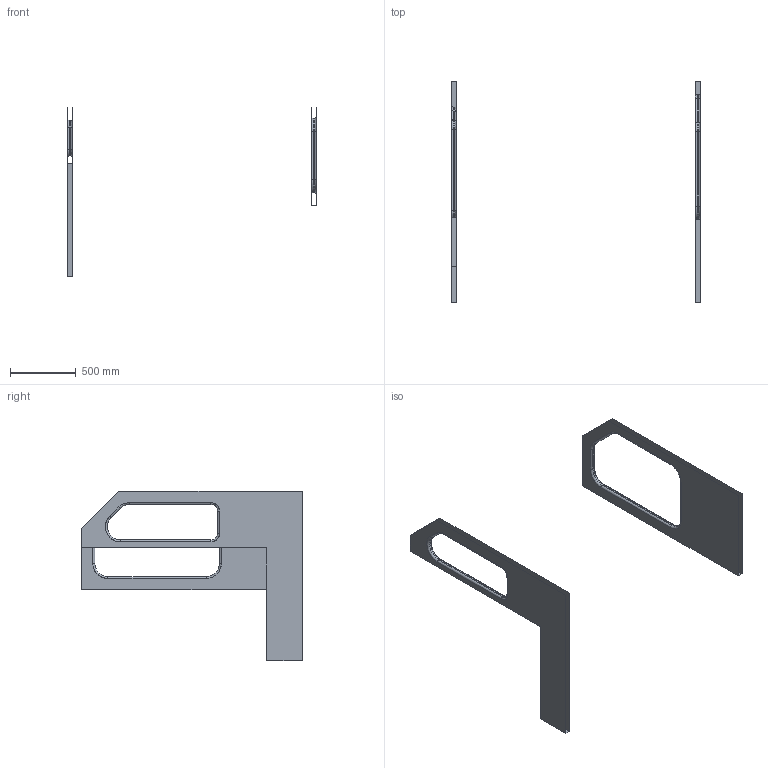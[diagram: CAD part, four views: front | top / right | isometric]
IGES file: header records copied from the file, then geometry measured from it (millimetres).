
Start section: START RECORD GO HERE.
Global section: file name: joues-bati-portes.igs; native system: IBM CATIA IGES - CATIA Version 5 Release 11 ; preprocessor: CATIA Version 5 Release 11 ; author: mta; organization: MONTREUIL; date: 20031030.144829; units: millimetre
Bounding box: 1900 x 1683.16 x 1291.08 mm (x, y, z)
Surface area: 3146366.4 mm2 (no closed solid volume)
Topology: 0 solids, 0 shells, 62 faces, 292 edges, 292 vertices
Faces by surface type: revolution 45, plane 17
